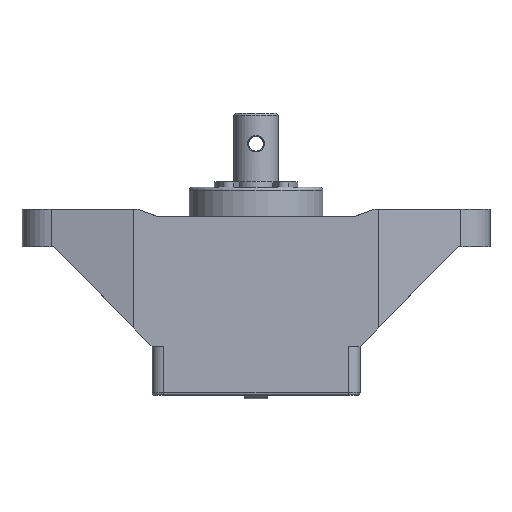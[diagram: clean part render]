
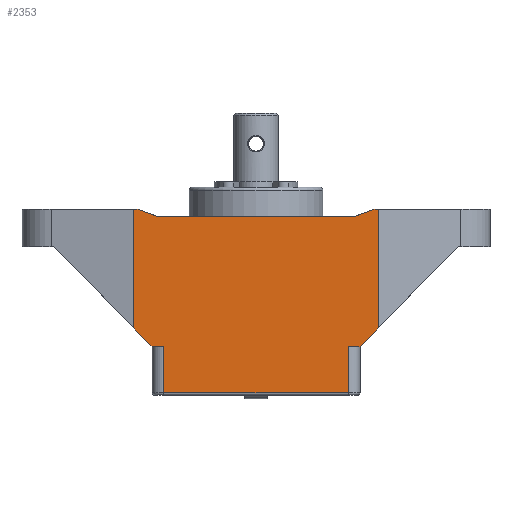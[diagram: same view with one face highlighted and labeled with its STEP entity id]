
A CAD part, front view. The second image highlights one B-rep face of the part: STEP entity #2353.
In plain terms, the highlighted planar face has unit normal (0, -1, 0).
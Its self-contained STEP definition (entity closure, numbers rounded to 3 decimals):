
#90 = CARTESIAN_POINT ( 'NONE',  ( 16.5, -13., -3. ) ) ;
#275 = CARTESIAN_POINT ( 'NONE',  ( -15.883, -13., -3. ) ) ;
#867 = DIRECTION ( 'NONE',  ( 0., 0., -1. ) ) ;
#995 = ORIENTED_EDGE ( 'NONE', *, *, #11202, .F. ) ;
#1184 = DIRECTION ( 'NONE',  ( 0., 0., 1. ) ) ;
#1394 = CARTESIAN_POINT ( 'NONE',  ( 14., -13., -21.5 ) ) ;
#1406 = VERTEX_POINT ( 'NONE', #275 ) ;
#1935 = VECTOR ( 'NONE', #2549, 1000. ) ;
#1985 = CARTESIAN_POINT ( 'NONE',  ( -14., -13., -21.5 ) ) ;
#2029 = AXIS2_PLACEMENT_3D ( 'NONE', #17456, #4832, #867 ) ;
#2102 = CARTESIAN_POINT ( 'NONE',  ( -12.4, -13., -19.237 ) ) ;
#2299 = EDGE_CURVE ( 'NONE', #2672, #3278, #15906, .T. ) ;
#2353 = ADVANCED_FACE ( 'NONE', ( #7310 ), #6198, .T. ) ;
#2417 = LINE ( 'NONE', #1394, #9709 ) ;
#2419 = VERTEX_POINT ( 'NONE', #17905 ) ;
#2430 = EDGE_CURVE ( 'NONE', #15451, #2672, #2517, .T. ) ;
#2517 = LINE ( 'NONE', #8123, #10849 ) ;
#2549 = DIRECTION ( 'NONE',  ( 0.94, 0., -0.342 ) ) ;
#2595 = CARTESIAN_POINT ( 'NONE',  ( 14., -13., -21.5 ) ) ;
#2672 = VERTEX_POINT ( 'NONE', #14756 ) ;
#2853 = ORIENTED_EDGE ( 'NONE', *, *, #16078, .F. ) ;
#3021 = CARTESIAN_POINT ( 'NONE',  ( -16.5, -13., -18.943 ) ) ;
#3090 = DIRECTION ( 'NONE',  ( -0.699, 0., 0.715 ) ) ;
#3278 = VERTEX_POINT ( 'NONE', #3021 ) ;
#3450 = CARTESIAN_POINT ( 'NONE',  ( 12.4, -13., -27.7 ) ) ;
#3478 = DIRECTION ( 'NONE',  ( 1., 0., 0. ) ) ;
#3586 = EDGE_CURVE ( 'NONE', #15451, #2419, #10473, .T. ) ;
#3686 = ORIENTED_EDGE ( 'NONE', *, *, #18065, .F. ) ;
#3950 = VERTEX_POINT ( 'NONE', #4989 ) ;
#3984 = DIRECTION ( 'NONE',  ( 1., 0., 0. ) ) ;
#4240 = DIRECTION ( 'NONE',  ( -1., 0., 0. ) ) ;
#4264 = ORIENTED_EDGE ( 'NONE', *, *, #16530, .F. ) ;
#4378 = LINE ( 'NONE', #10002, #13286 ) ;
#4568 = CARTESIAN_POINT ( 'NONE',  ( -16.5, -13., -3. ) ) ;
#4832 = DIRECTION ( 'NONE',  ( 0., -1., 0. ) ) ;
#4989 = CARTESIAN_POINT ( 'NONE',  ( 12.4, -13., -21.5 ) ) ;
#5029 = VECTOR ( 'NONE', #12207, 1000. ) ;
#5129 = VERTEX_POINT ( 'NONE', #16205 ) ;
#5190 = VECTOR ( 'NONE', #3478, 1000. ) ;
#5804 = ORIENTED_EDGE ( 'NONE', *, *, #3586, .T. ) ;
#5862 = VECTOR ( 'NONE', #1184, 1000. ) ;
#6135 = EDGE_CURVE ( 'NONE', #5129, #14874, #8289, .T. ) ;
#6198 = PLANE ( 'NONE',  #2029 ) ;
#6719 = LINE ( 'NONE', #2595, #15609 ) ;
#6882 = LINE ( 'NONE', #11144, #16102 ) ;
#6898 = CARTESIAN_POINT ( 'NONE',  ( 16.5, -13., -8. ) ) ;
#7015 = LINE ( 'NONE', #9605, #16384 ) ;
#7080 = CARTESIAN_POINT ( 'NONE',  ( -12.4, -13., -21.5 ) ) ;
#7310 = FACE_OUTER_BOUND ( 'NONE', #12818, .T. ) ;
#7485 = CARTESIAN_POINT ( 'NONE',  ( 13.136, -13., -4. ) ) ;
#7925 = DIRECTION ( 'NONE',  ( -0.699, 0., -0.715 ) ) ;
#8042 = EDGE_CURVE ( 'NONE', #13145, #14385, #17804, .T. ) ;
#8123 = CARTESIAN_POINT ( 'NONE',  ( -14., -13., -21.5 ) ) ;
#8289 = LINE ( 'NONE', #6898, #17751 ) ;
#8732 = VERTEX_POINT ( 'NONE', #15598 ) ;
#8802 = ORIENTED_EDGE ( 'NONE', *, *, #2430, .F. ) ;
#9216 = LINE ( 'NONE', #12513, #16543 ) ;
#9535 = LINE ( 'NONE', #13876, #1935 ) ;
#9605 = CARTESIAN_POINT ( 'NONE',  ( -14., -13., -3. ) ) ;
#9709 = VECTOR ( 'NONE', #4240, 1000. ) ;
#9758 = DIRECTION ( 'NONE',  ( 0., 0., -1. ) ) ;
#9824 = CARTESIAN_POINT ( 'NONE',  ( -16.5, -13., -8. ) ) ;
#9853 = DIRECTION ( 'NONE',  ( 0., 0., 1. ) ) ;
#10002 = CARTESIAN_POINT ( 'NONE',  ( 12.4, -13., -27.7 ) ) ;
#10100 = ORIENTED_EDGE ( 'NONE', *, *, #14940, .F. ) ;
#10308 = ORIENTED_EDGE ( 'NONE', *, *, #2299, .F. ) ;
#10473 = LINE ( 'NONE', #2102, #12607 ) ;
#10537 = EDGE_CURVE ( 'NONE', #3278, #17588, #14073, .T. ) ;
#10849 = VECTOR ( 'NONE', #16348, 1000. ) ;
#10986 = CARTESIAN_POINT ( 'NONE',  ( -8.9, -13., -4. ) ) ;
#11144 = CARTESIAN_POINT ( 'NONE',  ( 12.4, -13., -19.237 ) ) ;
#11202 = EDGE_CURVE ( 'NONE', #5129, #8732, #6719, .T. ) ;
#11817 = EDGE_CURVE ( 'NONE', #15619, #14874, #16549, .T. ) ;
#12206 = EDGE_CURVE ( 'NONE', #2419, #14339, #4378, .T. ) ;
#12207 = DIRECTION ( 'NONE',  ( 1., 0., 0. ) ) ;
#12360 = ORIENTED_EDGE ( 'NONE', *, *, #11817, .F. ) ;
#12500 = ORIENTED_EDGE ( 'NONE', *, *, #12895, .F. ) ;
#12513 = CARTESIAN_POINT ( 'NONE',  ( 15.883, -13., -3. ) ) ;
#12607 = VECTOR ( 'NONE', #15147, 1000. ) ;
#12818 = EDGE_LOOP ( 'NONE', ( #5804, #16992, #10100, #3686, #995, #14318, #12360, #12500, #15830, #2853, #4264, #13087, #10308, #8802 ) ) ;
#12895 = EDGE_CURVE ( 'NONE', #14385, #15619, #9216, .T. ) ;
#13087 = ORIENTED_EDGE ( 'NONE', *, *, #10537, .F. ) ;
#13145 = VERTEX_POINT ( 'NONE', #13433 ) ;
#13286 = VECTOR ( 'NONE', #15267, 1000. ) ;
#13433 = CARTESIAN_POINT ( 'NONE',  ( -13.136, -13., -4. ) ) ;
#13477 = DIRECTION ( 'NONE',  ( 0.94, 0., 0.342 ) ) ;
#13876 = CARTESIAN_POINT ( 'NONE',  ( -15.883, -13., -3. ) ) ;
#14073 = LINE ( 'NONE', #9824, #5862 ) ;
#14318 = ORIENTED_EDGE ( 'NONE', *, *, #6135, .T. ) ;
#14339 = VERTEX_POINT ( 'NONE', #3450 ) ;
#14385 = VERTEX_POINT ( 'NONE', #7485 ) ;
#14756 = CARTESIAN_POINT ( 'NONE',  ( -14., -13., -21.5 ) ) ;
#14874 = VERTEX_POINT ( 'NONE', #90 ) ;
#14940 = EDGE_CURVE ( 'NONE', #3950, #14339, #6882, .T. ) ;
#15147 = DIRECTION ( 'NONE',  ( 0., 0., -1. ) ) ;
#15267 = DIRECTION ( 'NONE',  ( 1., 0., 0. ) ) ;
#15451 = VERTEX_POINT ( 'NONE', #7080 ) ;
#15560 = VECTOR ( 'NONE', #3090, 1000. ) ;
#15598 = CARTESIAN_POINT ( 'NONE',  ( 14., -13., -21.5 ) ) ;
#15609 = VECTOR ( 'NONE', #7925, 1000. ) ;
#15619 = VERTEX_POINT ( 'NONE', #16314 ) ;
#15830 = ORIENTED_EDGE ( 'NONE', *, *, #8042, .F. ) ;
#15906 = LINE ( 'NONE', #1985, #15560 ) ;
#16078 = EDGE_CURVE ( 'NONE', #1406, #13145, #9535, .T. ) ;
#16102 = VECTOR ( 'NONE', #9758, 1000. ) ;
#16205 = CARTESIAN_POINT ( 'NONE',  ( 16.5, -13., -18.943 ) ) ;
#16314 = CARTESIAN_POINT ( 'NONE',  ( 15.883, -13., -3. ) ) ;
#16348 = DIRECTION ( 'NONE',  ( -1., 0., 0. ) ) ;
#16384 = VECTOR ( 'NONE', #3984, 1000. ) ;
#16530 = EDGE_CURVE ( 'NONE', #17588, #1406, #7015, .T. ) ;
#16543 = VECTOR ( 'NONE', #13477, 1000. ) ;
#16549 = LINE ( 'NONE', #18016, #5029 ) ;
#16992 = ORIENTED_EDGE ( 'NONE', *, *, #12206, .T. ) ;
#17456 = CARTESIAN_POINT ( 'NONE',  ( -14., -13., -28. ) ) ;
#17588 = VERTEX_POINT ( 'NONE', #4568 ) ;
#17751 = VECTOR ( 'NONE', #9853, 1000. ) ;
#17804 = LINE ( 'NONE', #10986, #5190 ) ;
#17905 = CARTESIAN_POINT ( 'NONE',  ( -12.4, -13., -27.7 ) ) ;
#18016 = CARTESIAN_POINT ( 'NONE',  ( 14., -13., -3. ) ) ;
#18065 = EDGE_CURVE ( 'NONE', #8732, #3950, #2417, .T. ) ;
